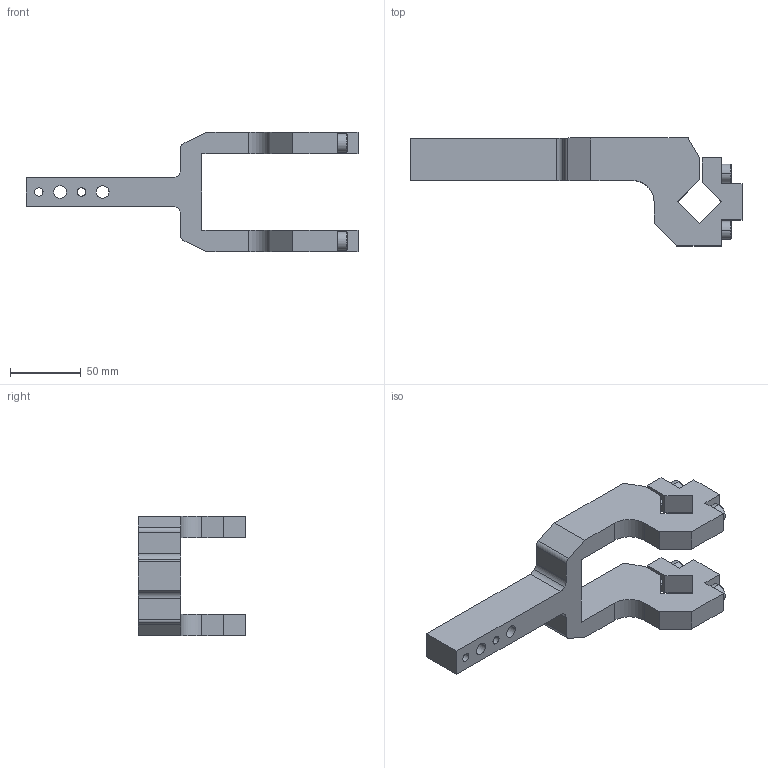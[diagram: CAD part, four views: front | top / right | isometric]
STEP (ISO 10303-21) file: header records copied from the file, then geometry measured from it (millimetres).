
FILE_DESCRIPTION((''),'2;1');
FILE_NAME('S:\Matthew\Step Files\XM Clamp Arms\XJ63-CA-04.stp','2006-06-28T08:15:26',('Matthew'),(''),'Autodesk Inventor 8','Autodesk Inventor 8','');
FILE_SCHEMA(('AUTOMOTIVE_DESIGN { 1 0 10303 214 1 1 1 1 }'));
Length unit declared in the file: millimetre
Products named in the file (1): XJ63-CA-04
Bounding box: 234 x 76 x 84 mm (x, y, z)
Volume: 226783.4 mm3; surface area: 56347.5 mm2
Topology: 1 solids, 3 shells, 143 faces, 365 edges, 234 vertices
Faces by surface type: plane 86, bspline 32, cylinder 17, cone 8
Entity records: 4696 total; most frequent: CARTESIAN_POINT 1279, ORIENTED_EDGE 714, DIRECTION 671, EDGE_CURVE 357, VECTOR 267, LINE 267, VERTEX_POINT 234, AXIS2_PLACEMENT_3D 202
